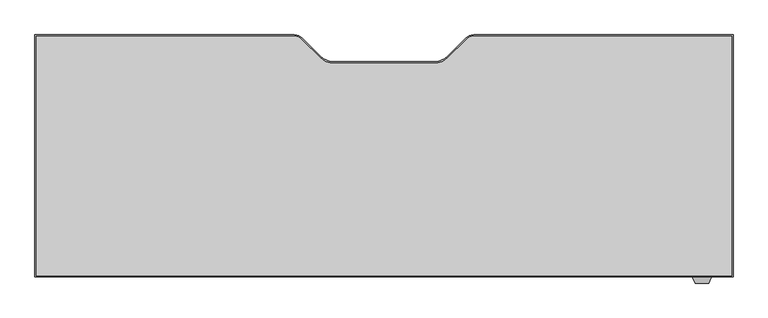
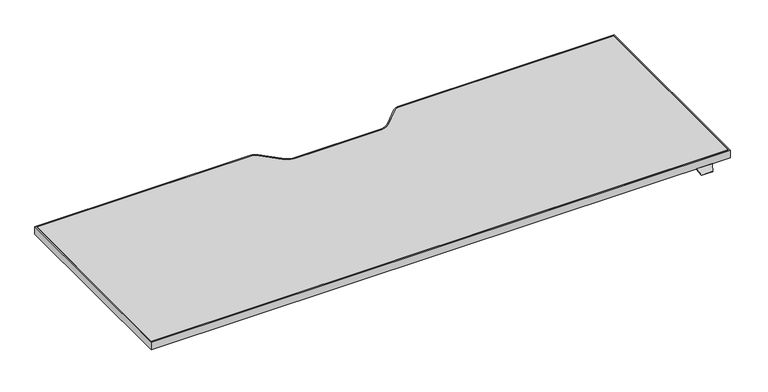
"""IFC4 building model written with IfcOpenShell, lengths in millimetres: furniture geometry, Steelcase Turnstone - Bivi - Height Adjustable Desk - T Base : 25D x 72W."""

from ifc_helpers import new_model, si_unit, point, frame, frame_2d, origin, place, context, project, spatial, polyline, circle_curve, trimmed, segment, composite_curve, outline, extrude, faceted_brep, source, transform, mapped, element, save


def furniture_8c405265(model_context):
    return source(origin(), model_context, "Body", "SolidModel", [
        faceted_brep([(468.4177913, -415.0301693, 760.9984131), (468.4177913, -412.5074599, 760.9984131), (468.4177913, -412.5074599, 762.4), (468.4177913, -415.0490853, 762.4), (468.4177913, -416.3594921, 761.3004382), (468.4177913, -416.3594921, 759.8829789), (418.8448135, -415.0490853, 762.4), (418.8448135, -412.5074599, 762.4), (418.8448135, -412.5074599, 760.9984131), (418.8448135, -415.0301693, 760.9984131), (418.8448135, -416.3594921, 759.8829789), (418.8448135, -416.3594921, 761.3004382), (461.4358363, -431.3323429, 748.7367246), (425.8267685, -431.3323429, 748.7367246), (425.4673686, -430.5616074, 747.9659891), (461.7952362, -430.5616074, 747.9659891)], [[[0, 1, 2, 3, 4, 5]], [[6, 7, 8, 9, 10, 11]], [[12, 13, 14, 15]], [[9, 0, 5, 15, 14, 10]], [[1, 0, 9, 8]], [[2, 1, 8, 7]], [[3, 2, 7, 6]], [[3, 6, 11, 13, 12, 4]], [[5, 4, 12, 15]], [[11, 10, 14, 13]]]),
        extrude(outline(composite_curve([segment(polyline([(-1303.6285908, 219.9509147), (-623.9070191, 219.9509147)]), True, "CONTINUOUS"), segment(trimmed(circle_curve(frame_2d((-623.9070191, 191.2489147)), 28.702), [point((-623.9070191, 219.9509147))], [point((-603.6116402, 211.5442935))], False, "CARTESIAN"), True, "CONTINUOUS"), segment(polyline([(-603.6116402, 211.5442935), (-556.0972358, 164.0298891)]), True, "CONTINUOUS"), segment(trimmed(circle_curve(frame_2d((-520.1762113, 199.9509136)), 50.8), [point((-556.0972358, 164.0298891))], [point((-520.1762113, 149.1509136))], True, "CARTESIAN"), True, "CONTINUOUS"), segment(polyline([(-520.1762113, 149.1509136), (-258.2809703, 149.1509136)]), True, "CONTINUOUS"), segment(trimmed(circle_curve(frame_2d((-258.2809703, 199.9509136)), 50.8), [point((-258.2809703, 149.1509136))], [point((-222.3599458, 164.0298891))], True, "CARTESIAN"), True, "CONTINUOUS"), segment(polyline([(-222.3599458, 164.0298891), (-174.8455414, 211.5442935)]), True, "CONTINUOUS"), segment(trimmed(circle_curve(frame_2d((-154.5501625, 191.2489147)), 28.702), [point((-174.8455414, 211.5442935))], [point((-154.5501625, 219.9509147))], False, "CARTESIAN"), True, "CONTINUOUS"), segment(polyline([(-154.5501625, 219.9509147), (525.1714092, 219.9509147), (525.1714092, -415.0490853), (-1303.6285908, -415.0490853), (-1303.6285908, 219.9509147)]), True, "CONTINUOUS")], self_intersect=False), holes=[composite_curve([segment(polyline([(-1300.2487543, 216.6489147), (-1300.2487543, -411.7470853), (521.8694092, -411.7470853), (521.8694092, 216.6489147), (-154.5501625, 216.6489147)]), True, "CONTINUOUS"), segment(trimmed(circle_curve(frame_2d((-154.5501625, 191.2489147)), 25.4), [point((-154.5501625, 216.6489147))], [point((-172.5106748, 209.2094269))], True, "CARTESIAN"), True, "CONTINUOUS"), segment(polyline([(-172.5106748, 209.2094269), (-220.527602, 161.1924998)]), True, "CONTINUOUS"), segment(trimmed(circle_curve(frame_2d((-256.4486265, 197.1135242)), 50.8), [point((-220.527602, 161.1924998))], [point((-256.4486265, 146.3135242))], False, "CARTESIAN"), True, "CONTINUOUS"), segment(polyline([(-256.4486265, 146.3135242), (-389.2285908, 146.3135242), (-522.0085552, 146.3135242)]), True, "CONTINUOUS"), segment(trimmed(circle_curve(frame_2d((-522.0085552, 197.1135242)), 50.8), [point((-522.0085552, 146.3135242))], [point((-557.9295796, 161.1924998))], False, "CARTESIAN"), True, "CONTINUOUS"), segment(polyline([(-557.9295796, 161.1924998), (-605.9465068, 209.2094269)]), True, "CONTINUOUS"), segment(trimmed(circle_curve(frame_2d((-623.9070191, 191.2489147)), 25.4), [point((-605.9465068, 209.2094269))], [point((-623.9070191, 216.6489147))], True, "CARTESIAN"), True, "CONTINUOUS"), segment(polyline([(-623.9070191, 216.6489147), (-1300.2487543, 216.6489147)]), True, "CONTINUOUS")], self_intersect=False)]), frame((0.0, 0.0, 762.4), z_axis=(0.0, 0.0, 1.0), x_axis=(1.0, 0.0, 0.0)), (0.0, 0.0, 1.0), 25.0),
        extrude(outline(composite_curve([segment(polyline([(-1300.2487543, 216.6489147), (-623.9070191, 216.6489147)]), True, "CONTINUOUS"), segment(trimmed(circle_curve(frame_2d((-623.9070191, 191.2489147)), 25.4), [point((-623.9070191, 216.6489147))], [point((-605.9465068, 209.2094269))], False, "CARTESIAN"), True, "CONTINUOUS"), segment(polyline([(-605.9465068, 209.2094269), (-557.9295796, 161.1924998)]), True, "CONTINUOUS"), segment(trimmed(circle_curve(frame_2d((-522.0085552, 197.1135242)), 50.8), [point((-557.9295796, 161.1924998))], [point((-522.0085552, 146.3135242))], True, "CARTESIAN"), True, "CONTINUOUS"), segment(polyline([(-522.0085552, 146.3135242), (-389.2285908, 146.3135242), (-256.4486265, 146.3135242)]), True, "CONTINUOUS"), segment(trimmed(circle_curve(frame_2d((-256.4486265, 197.1135242)), 50.8), [point((-256.4486265, 146.3135242))], [point((-220.527602, 161.1924998))], True, "CARTESIAN"), True, "CONTINUOUS"), segment(polyline([(-220.527602, 161.1924998), (-172.5106748, 209.2094269)]), True, "CONTINUOUS"), segment(trimmed(circle_curve(frame_2d((-154.5501625, 191.2489147)), 25.4), [point((-172.5106748, 209.2094269))], [point((-154.5501625, 216.6489147))], False, "CARTESIAN"), True, "CONTINUOUS"), segment(polyline([(-154.5501625, 216.6489147), (521.8694092, 216.6489147), (521.8694092, -411.7470853), (-1300.2487543, -411.7470853), (-1300.2487543, 216.6489147)]), True, "CONTINUOUS")], self_intersect=False)), frame((0.0, 0.0, 762.4), z_axis=(0.0, 0.0, 1.0), x_axis=(1.0, 0.0, 0.0)), (0.0, 0.0, 1.0), 25.0),
    ])


if __name__ == "__main__":
    model = new_model("IFC4")
    model_context = context("Model", 3, world=origin())
    ifc_project = project(units=[si_unit("LENGTHUNIT", "METRE", prefix="MILLI")], contexts=[model_context])
    site = spatial("IfcSite", under=ifc_project)
    building = spatial("IfcBuilding", under=site)
    placement = place(None, origin())
    furniture_shape = furniture_8c405265(model_context)
    element("IfcFurniture", 1, ObjectType="Steelcase Turnstone - Bivi - Height Adjustable Desk - T Base : 25D x 72W", at=placement, inside=building, context=model_context, shape_type="MappedRepresentation", body=[
        mapped(furniture_shape, transform((0.0, 0.0, 0.0), x_axis=(1.0, 0.0, 0.0), y_axis=(0.0, 1.0, 0.0), z_axis=(0.0, 0.0, 1.0))),
    ])
    save(model, "model.ifc")
